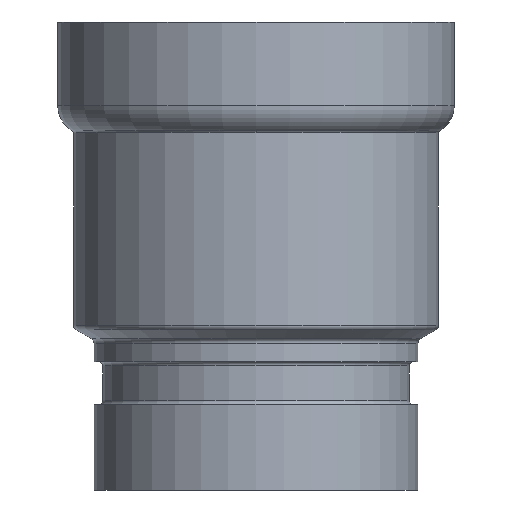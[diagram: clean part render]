
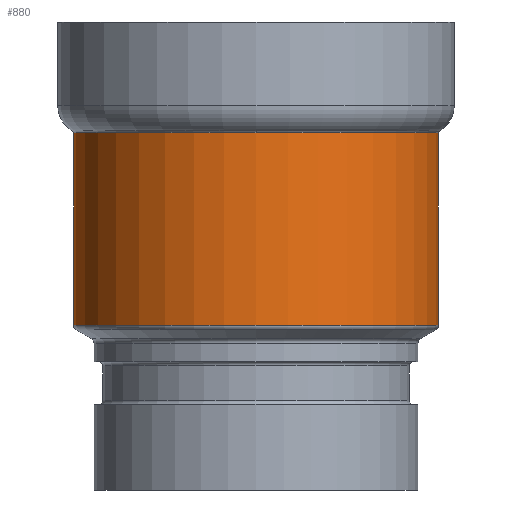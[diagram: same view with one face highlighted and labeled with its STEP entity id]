
A CAD part, front view. The second image highlights one B-rep face of the part: STEP entity #880.
In plain terms, the highlighted cylindrical face has radius 33.95 mm (diameter 67.9 mm), a partial arc.
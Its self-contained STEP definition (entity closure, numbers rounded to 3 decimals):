
#430=CARTESIAN_POINT('',(-28.384,-80.,0.));
#440=DIRECTION('',(1.,0.,0.));
#450=DIRECTION('',(0.,0.,-1.));
#460=AXIS2_PLACEMENT_3D('',#430,#440,#450);
#470=CYLINDRICAL_SURFACE('',#460,33.95);
#480=CARTESIAN_POINT('',(-28.384,-80.,-33.95));
#490=DIRECTION('',(1.,0.,0.));
#500=VECTOR('',#490,1.);
#510=LINE('',#480,#500);
#520=CARTESIAN_POINT('',(-42.564,-80.,-33.95));
#530=VERTEX_POINT('',#520);
#540=CARTESIAN_POINT('',(-6.747,-80.,-33.95));
#550=VERTEX_POINT('',#540);
#560=EDGE_CURVE('',#530,#550,#510,.T.);
#570=ORIENTED_EDGE('',*,*,#560,.T.);
#580=CARTESIAN_POINT('',(-42.564,-80.,0.));
#590=DIRECTION('',(-1.,0.,0.));
#600=DIRECTION('',(0.,1.,0.));
#610=AXIS2_PLACEMENT_3D('',#580,#590,#600);
#620=CIRCLE('',#610,33.95);
#630=CARTESIAN_POINT('',(-42.564,-113.95,0.)
);
#640=VERTEX_POINT('',#630);
#650=EDGE_CURVE('',#530,#640,#620,.T.);
#660=ORIENTED_EDGE('',*,*,#650,.F.);
#670=CARTESIAN_POINT('',(-42.564,-80.,33.95));
#680=VERTEX_POINT('',#670);
#690=EDGE_CURVE('',#640,#680,#620,.T.);
#700=ORIENTED_EDGE('',*,*,#690,.F.);
#710=CARTESIAN_POINT('',(-28.384,-80.,33.95));
#720=DIRECTION('',(1.,0.,0.));
#730=VECTOR('',#720,1.);
#740=LINE('',#710,#730);
#750=CARTESIAN_POINT('',(-6.747,-80.,33.95));
#760=VERTEX_POINT('',#750);
#770=EDGE_CURVE('',#680,#760,#740,.T.);
#780=ORIENTED_EDGE('',*,*,#770,.F.);
#790=CARTESIAN_POINT('',(-6.747,-80.,0.));
#800=DIRECTION('',(1.,0.,0.));
#810=DIRECTION('',(0.,0.,1.));
#820=AXIS2_PLACEMENT_3D('',#790,#800,#810);
#830=CIRCLE('',#820,33.95);
#840=EDGE_CURVE('',#760,#550,#830,.T.);
#850=ORIENTED_EDGE('',*,*,#840,.F.);
#860=EDGE_LOOP('',(#850,#780,#700,#660,#570));
#870=FACE_OUTER_BOUND('',#860,.T.);
#880=ADVANCED_FACE('',(#870),#470,.T.);
